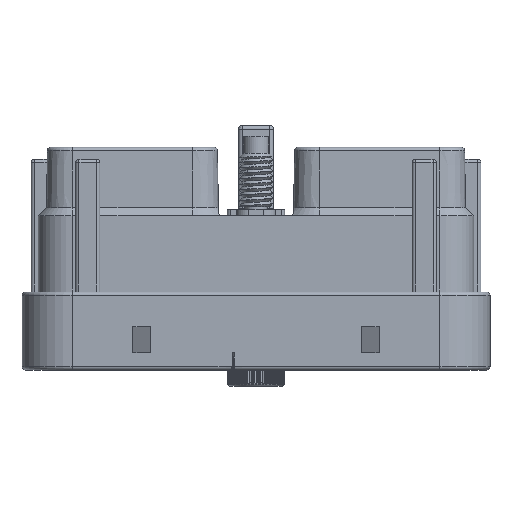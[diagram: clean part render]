
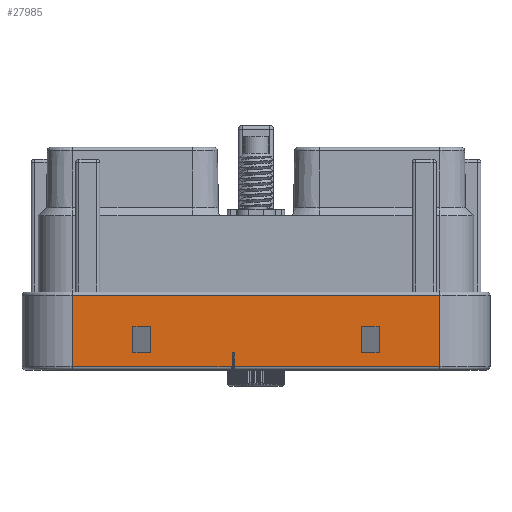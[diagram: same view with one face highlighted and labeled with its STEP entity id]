
A CAD part, front view. The second image highlights one B-rep face of the part: STEP entity #27985.
In plain terms, the highlighted planar face has unit normal (0, -1, 0).
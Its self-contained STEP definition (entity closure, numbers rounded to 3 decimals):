
#2614=CARTESIAN_POINT('',(-3.505,-13.97,0.5));
#2677=DIRECTION('',(1.,0.,0.));
#2678=VECTOR('',#2677,0.305);
#2679=CARTESIAN_POINT('',(-3.505,-13.97,2.54));
#2680=LINE('',#2679,#2678);
#2707=DIRECTION('',(0.,0.,1.));
#2708=VECTOR('',#2707,2.04);
#2709=CARTESIAN_POINT('',(-3.2,-13.97,0.5));
#2710=LINE('',#2709,#2708);
#2721=DIRECTION('',(0.,0.,-1.));
#2722=VECTOR('',#2721,3.81);
#2723=CARTESIAN_POINT('',(18.034,-13.97,6.35));
#2724=LINE('',#2723,#2722);
#2728=DIRECTION('',(-1.,0.,0.));
#2729=VECTOR('',#2728,2.54);
#2730=CARTESIAN_POINT('',(18.034,-13.97,6.35));
#2731=LINE('',#2730,#2729);
#2735=DIRECTION('',(0.,0.,-1.));
#2736=VECTOR('',#2735,3.81);
#2737=CARTESIAN_POINT('',(15.494,-13.97,6.35));
#2738=LINE('',#2737,#2736);
#2742=DIRECTION('',(-1.,0.,0.));
#2743=VECTOR('',#2742,2.54);
#2744=CARTESIAN_POINT('',(18.034,-13.97,2.54));
#2745=LINE('',#2744,#2743);
#2749=DIRECTION('',(0.,0.,-1.));
#2750=VECTOR('',#2749,3.81);
#2751=CARTESIAN_POINT('',(-18.034,-13.97,6.35));
#2752=LINE('',#2751,#2750);
#2756=DIRECTION('',(1.,0.,0.));
#2757=VECTOR('',#2756,2.54);
#2758=CARTESIAN_POINT('',(-18.034,-13.97,2.54));
#2759=LINE('',#2758,#2757);
#2763=DIRECTION('',(0.,0.,-1.));
#2764=VECTOR('',#2763,3.81);
#2765=CARTESIAN_POINT('',(-15.494,-13.97,6.35));
#2766=LINE('',#2765,#2764);
#2770=DIRECTION('',(1.,0.,0.));
#2771=VECTOR('',#2770,2.54);
#2772=CARTESIAN_POINT('',(-18.034,-13.97,6.35));
#2773=LINE('',#2772,#2771);
#2777=DIRECTION('',(1.,0.,0.));
#2778=VECTOR('',#2777,53.898);
#2779=CARTESIAN_POINT('',(-26.949,-13.97,10.93));
#2780=LINE('',#2779,#2778);
#2784=DIRECTION('',(-1.,0.,0.));
#2785=VECTOR('',#2784,30.149);
#2786=CARTESIAN_POINT('',(26.949,-13.97,0.5));
#2787=LINE('',#2786,#2785);
#2791=DIRECTION('',(0.,0.,1.));
#2792=VECTOR('',#2791,2.04);
#2793=CARTESIAN_POINT('',(-3.505,-13.97,0.5));
#2794=LINE('',#2793,#2792);
#2798=DIRECTION('',(-1.,0.,0.));
#2799=VECTOR('',#2798,23.444);
#2800=CARTESIAN_POINT('',(-3.505,-13.97,0.5));
#2801=LINE('',#2800,#2799);
#2805=DIRECTION('',(0.,0.,1.));
#2806=VECTOR('',#2805,10.43);
#2807=CARTESIAN_POINT('',(-26.949,-13.97,0.5));
#2808=LINE('',#2807,#2806);
#12103=DIRECTION('',(0.,0.,1.));
#12104=VECTOR('',#12103,10.43);
#12105=CARTESIAN_POINT('',(26.949,-13.97,0.5));
#12106=LINE('',#12105,#12104);
#22731=CARTESIAN_POINT('',(26.949,-13.97,0.5));
#22732=VERTEX_POINT('',#22731);
#22733=CARTESIAN_POINT('',(-3.2,-13.97,0.5));
#22734=VERTEX_POINT('',#22733);
#22783=VERTEX_POINT('',#2614);
#22787=CARTESIAN_POINT('',(-26.949,-13.97,0.5));
#22788=VERTEX_POINT('',#22787);
#23445=CARTESIAN_POINT('',(-3.2,-13.97,2.54));
#23447=VERTEX_POINT('',#23445);
#23463=CARTESIAN_POINT('',(-3.505,-13.97,2.54));
#23464=VERTEX_POINT('',#23463);
#23629=CARTESIAN_POINT('',(18.034,-13.97,6.35));
#23630=CARTESIAN_POINT('',(18.034,-13.97,2.54));
#23631=VERTEX_POINT('',#23629);
#23632=VERTEX_POINT('',#23630);
#23633=CARTESIAN_POINT('',(15.494,-13.97,6.35));
#23634=CARTESIAN_POINT('',(15.494,-13.97,2.54));
#23635=VERTEX_POINT('',#23633);
#23636=VERTEX_POINT('',#23634);
#23653=CARTESIAN_POINT('',(-18.034,-13.97,2.54));
#23654=VERTEX_POINT('',#23653);
#23655=CARTESIAN_POINT('',(-18.034,-13.97,6.35));
#23656=VERTEX_POINT('',#23655);
#23657=CARTESIAN_POINT('',(-15.494,-13.97,2.54));
#23658=VERTEX_POINT('',#23657);
#23659=CARTESIAN_POINT('',(-15.494,-13.97,6.35));
#23660=VERTEX_POINT('',#23659);
#24033=CARTESIAN_POINT('',(26.949,-13.97,10.93));
#24035=VERTEX_POINT('',#24033);
#24059=CARTESIAN_POINT('',(-26.949,-13.97,10.93));
#24060=VERTEX_POINT('',#24059);
#27944=CARTESIAN_POINT('',(26.949,-13.97,0.));
#27945=DIRECTION('',(0.,-1.,0.));
#27946=DIRECTION('',(-1.,0.,0.));
#27947=AXIS2_PLACEMENT_3D('',#27944,#27945,#27946);
#27948=PLANE('',#27947);
#27950=ORIENTED_EDGE('',*,*,#27949,.T.);
#27952=ORIENTED_EDGE('',*,*,#27951,.F.);
#27954=ORIENTED_EDGE('',*,*,#27953,.T.);
#27955=ORIENTED_EDGE('',*,*,#27935,.T.);
#27956=ORIENTED_EDGE('',*,*,#27438,.F.);
#27958=ORIENTED_EDGE('',*,*,#27957,.F.);
#27960=ORIENTED_EDGE('',*,*,#27959,.T.);
#27962=ORIENTED_EDGE('',*,*,#27961,.T.);
#27963=EDGE_LOOP('',(#27950,#27952,#27954,#27955,#27956,#27958,#27960,#27962));
#27964=FACE_OUTER_BOUND('',#27963,.F.);
#27966=ORIENTED_EDGE('',*,*,#27965,.F.);
#27968=ORIENTED_EDGE('',*,*,#27967,.T.);
#27970=ORIENTED_EDGE('',*,*,#27969,.T.);
#27972=ORIENTED_EDGE('',*,*,#27971,.F.);
#27973=EDGE_LOOP('',(#27966,#27968,#27970,#27972));
#27974=FACE_BOUND('',#27973,.F.);
#27976=ORIENTED_EDGE('',*,*,#27975,.T.);
#27978=ORIENTED_EDGE('',*,*,#27977,.T.);
#27980=ORIENTED_EDGE('',*,*,#27979,.F.);
#27982=ORIENTED_EDGE('',*,*,#27981,.F.);
#27983=EDGE_LOOP('',(#27976,#27978,#27980,#27982));
#27984=FACE_BOUND('',#27983,.F.);
#27985=ADVANCED_FACE('',(#27964,#27974,#27984),#27948,.T.);
#27438=EDGE_CURVE('',#23464,#23447,#2680,.T.);
#27935=EDGE_CURVE('',#22734,#23447,#2710,.T.);
#27949=EDGE_CURVE('',#24060,#24035,#2780,.T.);
#27951=EDGE_CURVE('',#22732,#24035,#12106,.T.);
#27953=EDGE_CURVE('',#22732,#22734,#2787,.T.);
#27957=EDGE_CURVE('',#22783,#23464,#2794,.T.);
#27959=EDGE_CURVE('',#22783,#22788,#2801,.T.);
#27961=EDGE_CURVE('',#22788,#24060,#2808,.T.);
#27965=EDGE_CURVE('',#23631,#23632,#2724,.T.);
#27967=EDGE_CURVE('',#23631,#23635,#2731,.T.);
#27969=EDGE_CURVE('',#23635,#23636,#2738,.T.);
#27971=EDGE_CURVE('',#23632,#23636,#2745,.T.);
#27975=EDGE_CURVE('',#23656,#23654,#2752,.T.);
#27977=EDGE_CURVE('',#23654,#23658,#2759,.T.);
#27979=EDGE_CURVE('',#23660,#23658,#2766,.T.);
#27981=EDGE_CURVE('',#23656,#23660,#2773,.T.);
